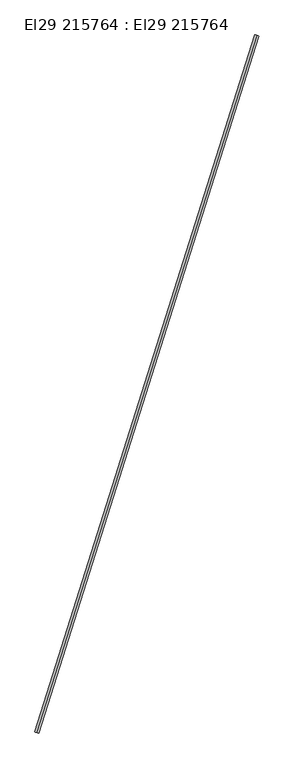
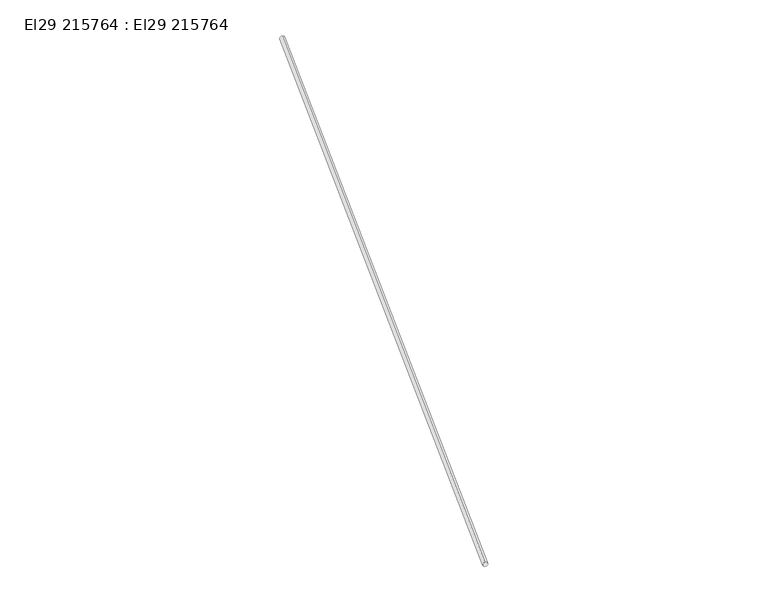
"""IFC4 building model written with IfcOpenShell, lengths in millimetres: cable carrier segment geometry, El29 215764 : El29 215764."""

from ifc_helpers import new_model, si_unit, point, frame, frame_2d, origin, place, context, project, spatial, circle_curve, trimmed, segment, composite_curve, outline, extrude, source, transform, mapped, element, save


def el29_215764_el29_215764_2f953beb(model_context):
    return source(origin(), model_context, "Body", "SweptSolid", [
        extrude(outline(composite_curve([segment(trimmed(circle_curve(frame_2d((0.0, -9.5)), 9.5), [point((0.0, -19.0))], [point((0.0, 0.0))], False, "CARTESIAN"), True, "CONTINUOUS"), segment(trimmed(circle_curve(frame_2d((0.0, -9.5)), 9.5), [point((0.0, 0.0))], [point((0.0, -19.0))], False, "CARTESIAN"), True, "CONTINUOUS")], self_intersect=False)), frame((25958.32, 13217.52, 3009.5), z_axis=(0.30109805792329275, 0.9535931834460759, 0.0), x_axis=(-0.9535931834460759, 0.30109805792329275, 0.0)), (0.0, 0.0, 1.0), 3369.53),
    ])


if __name__ == "__main__":
    model = new_model("IFC4")
    model_context = context("Model", 3, world=origin())
    ifc_project = project(units=[si_unit("LENGTHUNIT", "METRE", prefix="MILLI")], contexts=[model_context])
    site = spatial("IfcSite", under=ifc_project)
    building = spatial("IfcBuilding", under=site)
    placement = place(None, origin())
    el29_215764_el29_215764_shape = el29_215764_el29_215764_2f953beb(model_context)
    element("IfcCableCarrierSegment", 1, ObjectType="El29 215764 : El29 215764", at=placement, inside=building, context=model_context, shape_type="MappedRepresentation", body=[
        mapped(el29_215764_el29_215764_shape, transform((0.0, 0.0, 0.0), x_axis=(1.0, 0.0, 0.0), y_axis=(0.0, 1.0, 0.0), z_axis=(0.0, 0.0, 1.0))),
    ])
    save(model, "model.ifc")
